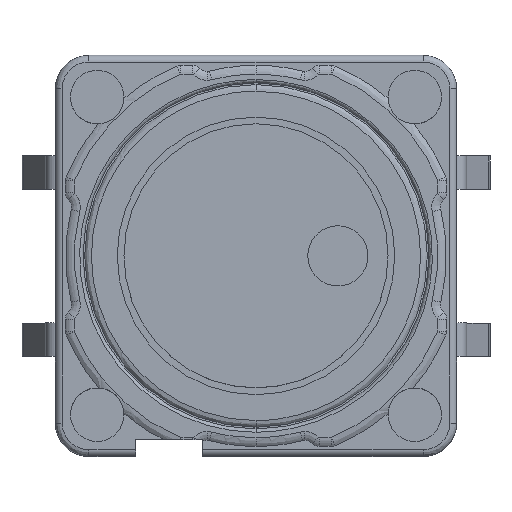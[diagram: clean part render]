
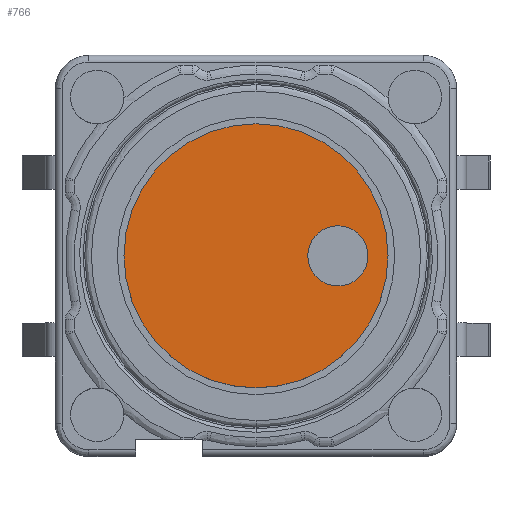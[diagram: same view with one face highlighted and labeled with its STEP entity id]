
A CAD part, top view. The second image highlights one B-rep face of the part: STEP entity #766.
In plain terms, the highlighted planar face has unit normal (0, 0, 1).
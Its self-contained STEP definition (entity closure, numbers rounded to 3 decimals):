
#766 = ADVANCED_FACE ( 'NONE', ( #4635, #4621 ), #4423, .T. ) ;
#767 = ORIENTED_EDGE ( 'NONE', *, *, #923, .F. ) ;
#769 = ORIENTED_EDGE ( 'NONE', *, *, #999, .F. ) ;
#770 = EDGE_LOOP ( 'NONE', ( #771, #1004 ) ) ;
#771 = ORIENTED_EDGE ( 'NONE', *, *, #931, .T. ) ;
#792 = VERTEX_POINT ( 'NONE', #5313 ) ;
#916 = VERTEX_POINT ( 'NONE', #6920 ) ;
#923 = EDGE_CURVE ( 'NONE', #988, #916, #6899, .T. ) ;
#931 = EDGE_CURVE ( 'NONE', #932, #792, #6839, .T. ) ;
#932 = VERTEX_POINT ( 'NONE', #6843 ) ;
#988 = VERTEX_POINT ( 'NONE', #7142 ) ;
#999 = EDGE_CURVE ( 'NONE', #916, #988, #7019, .T. ) ;
#1000 = EDGE_CURVE ( 'NONE', #792, #932, #7058, .T. ) ;
#1001 = EDGE_LOOP ( 'NONE', ( #767, #769 ) ) ;
#1004 = ORIENTED_EDGE ( 'NONE', *, *, #1000, .T. ) ;
#4399 = DIRECTION ( 'NONE',  ( 1., 0., 0. ) ) ;
#4402 = DIRECTION ( 'NONE',  ( 0., 0., 1. ) ) ;
#4423 = PLANE ( 'NONE',  #4445 ) ;
#4444 = CARTESIAN_POINT ( 'NONE',  ( 0., 0., 4.3 ) ) ;
#4445 = AXIS2_PLACEMENT_3D ( 'NONE', #4444, #4402, #4399 ) ;
#4621 = FACE_BOUND ( 'NONE', #770, .T. ) ;
#4635 = FACE_OUTER_BOUND ( 'NONE', #1001, .T. ) ;
#5313 = CARTESIAN_POINT ( 'NONE',  ( 1.55, 0., 4.3 ) ) ;
#6763 = DIRECTION ( 'NONE',  ( -1., 0., 0. ) ) ;
#6765 = DIRECTION ( 'NONE',  ( 0., 0., -1. ) ) ;
#6783 = CARTESIAN_POINT ( 'NONE',  ( 0., 0., 4.3 ) ) ;
#6835 = DIRECTION ( 'NONE',  ( 1., 0., 0. ) ) ;
#6836 = DIRECTION ( 'NONE',  ( 0., 0., -1. ) ) ;
#6837 = AXIS2_PLACEMENT_3D ( 'NONE', #6848, #6836, #6835 ) ;
#6839 = CIRCLE ( 'NONE', #6837, 0.9 ) ;
#6843 = CARTESIAN_POINT ( 'NONE',  ( 3.35, 0., 4.3 ) ) ;
#6848 = CARTESIAN_POINT ( 'NONE',  ( 2.45, 0., 4.3 ) ) ;
#6899 = CIRCLE ( 'NONE', #6901, 3.95 ) ;
#6901 = AXIS2_PLACEMENT_3D ( 'NONE', #6783, #6765, #6763 ) ;
#6920 = CARTESIAN_POINT ( 'NONE',  ( 3.95, 0., 4.3 ) ) ;
#7001 = DIRECTION ( 'NONE',  ( 1., 0., 0. ) ) ;
#7002 = DIRECTION ( 'NONE',  ( 0., 0., -1. ) ) ;
#7003 = CARTESIAN_POINT ( 'NONE',  ( 2.45, 0., 4.3 ) ) ;
#7004 = AXIS2_PLACEMENT_3D ( 'NONE', #7003, #7002, #7001 ) ;
#7008 = DIRECTION ( 'NONE',  ( -1., 0., 0. ) ) ;
#7009 = DIRECTION ( 'NONE',  ( 0., 0., -1. ) ) ;
#7010 = CARTESIAN_POINT ( 'NONE',  ( 0., 0., 4.3 ) ) ;
#7019 = CIRCLE ( 'NONE', #7049, 3.95 ) ;
#7049 = AXIS2_PLACEMENT_3D ( 'NONE', #7010, #7009, #7008 ) ;
#7058 = CIRCLE ( 'NONE', #7004, 0.9 ) ;
#7142 = CARTESIAN_POINT ( 'NONE',  ( -3.95, 0., 4.3 ) ) ;
